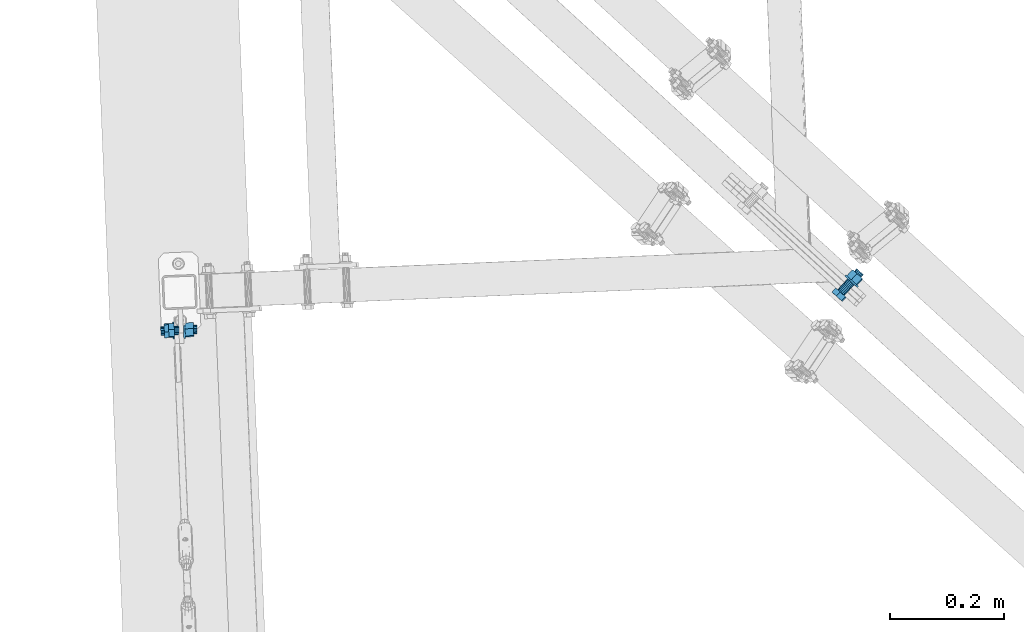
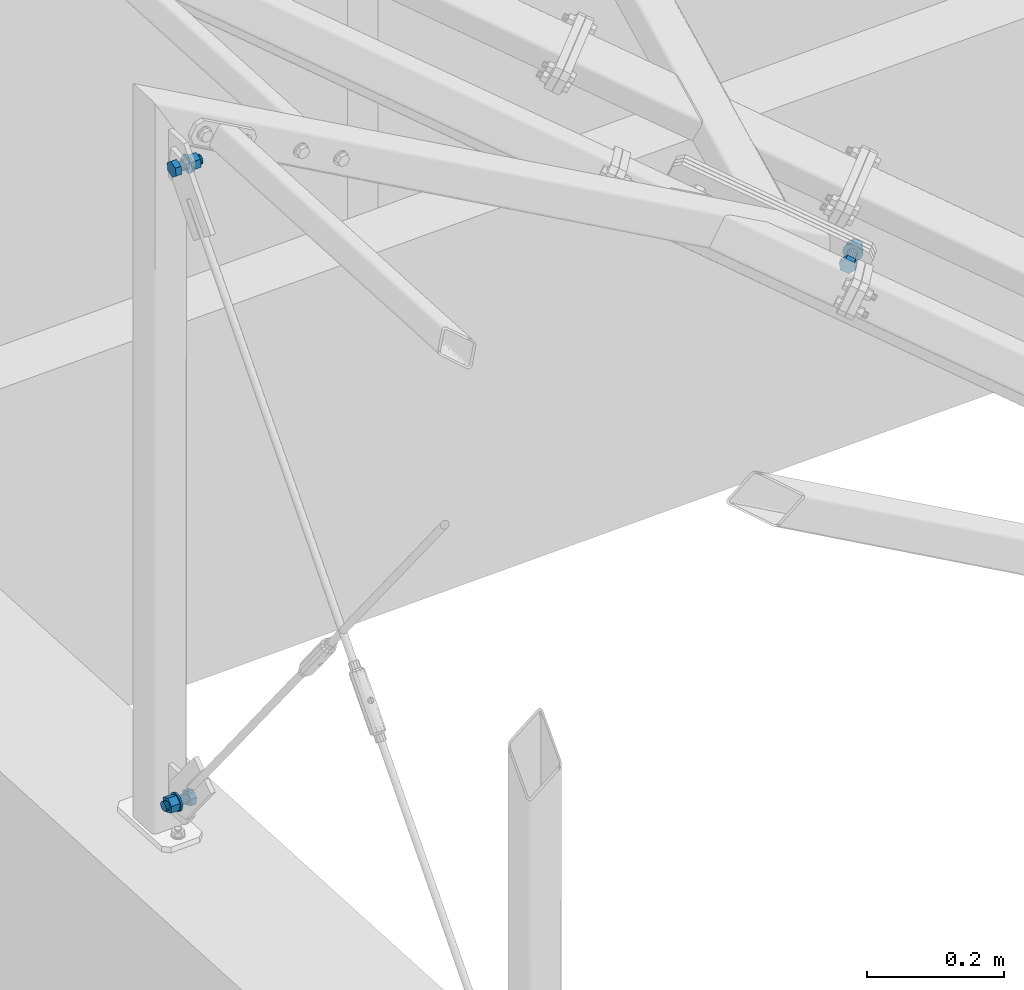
# One storey, part 251 of 288: 3 mechanical fasteners.
"""IFC2X3 building model written with IfcOpenShell, lengths in millimetres."""

from ifc_helpers import new_model, entity, si_unit, converted_unit, origin_with_axes, place, context, project, spatial, faceted_brep, element, save


model = new_model("IFC2X3")

# Units and contexts
model_context = context("Model", 3, precision=1e-09, world=origin_with_axes())
ifc_project = project(units=[si_unit("LENGTHUNIT", "METRE", prefix="MILLI"), si_unit("AREAUNIT", "SQUARE_METRE"), si_unit("VOLUMEUNIT", "CUBIC_METRE"), converted_unit("PLANEANGLEUNIT", "DEGREE", entity("IfcPlaneAngleMeasure", 0.01745329), si_unit("PLANEANGLEUNIT", "RADIAN"), dimensions=[0, 0, 0, 0, 0, 0, 0])], contexts=[model_context])

# Site, building, storey
site_placement = place(None, origin_with_axes())
site = spatial("IfcSite", under=ifc_project, at=site_placement, Name="Remont ?wietlik?w nad MC w NCPP w Opolu", CompositionType="ELEMENT")
building_placement = place(site_placement, origin_with_axes())
building = spatial("IfcBuilding", under=site, at=building_placement, Name="Konstrukcja 1", CompositionType="ELEMENT")
storey_placement = place(building_placement, origin_with_axes())
storey = spatial("IfcBuildingStorey", under=building, at=storey_placement, Name="Default Storey", CompositionType="ELEMENT", Elevation=0.0)

# Mechanical fasteners
mechanical_fastener_1_placement = place(None, origin_with_axes())
element("IfcMechanicalFastener", 1, at=mechanical_fastener_1_placement, inside=storey, ObjectType="-", NominalDiameter=16.0, NominalLength=50.0, context=model_context, shape_type="Brep", body=[
    faceted_brep([(448.951132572, 14353.470952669, 606.053611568), (442.211106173, 14346.083753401, 606.090096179), (443.508704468, 14344.834378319, 592.836948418), (450.248730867, 14352.221577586, 592.800463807), (435.674851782, 14351.941498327, 584.650971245), (442.414878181, 14359.328697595, 584.614486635), (426.543400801, 14360.297993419, 589.718141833), (433.2834272, 14367.685192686, 589.681657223), (425.245802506, 14361.547368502, 602.971289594), (431.985828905, 14368.934567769, 602.934804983), (433.079655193, 14354.440248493, 611.157266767), (439.819681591, 14361.82744776, 611.120782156)], [[[0, 1, 2, 3]], [[3, 2, 4, 5]], [[5, 4, 6, 7]], [[7, 6, 8, 9]], [[9, 8, 10, 11]], [[11, 10, 1, 0]], [[4, 2, 1, 10, 8, 6]], [[0, 3, 5, 7, 9, 11]]]),
    faceted_brep([(438.860108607, 14362.600933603, 590.464039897), (456.384177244, 14381.807651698, 590.369179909), (458.646135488, 14379.740912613, 589.772896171), (441.122066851, 14360.534194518, 589.867756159), (460.907364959, 14377.68085358, 590.394521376), (443.383296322, 14358.474135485, 590.489381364), (462.82361397, 14375.941099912, 592.13941872), (445.299545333, 14356.734381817, 592.234278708), (464.103150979, 14374.786513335, 594.741943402), (446.579082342, 14355.57979524, 594.836803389), (464.551178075, 14374.392869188, 597.805884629), (447.027109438, 14355.186151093, 597.900744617), (464.099487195, 14374.820096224, 600.864785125), (446.575418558, 14355.613378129, 600.959645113), (462.81684418, 14376.003153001, 603.452955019), (445.292775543, 14356.796434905, 603.547815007), (460.898519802, 14377.761929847, 605.176368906), (443.374451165, 14358.555211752, 605.271228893), (458.636561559, 14379.828668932, 605.772652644), (441.112492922, 14360.621950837, 605.867512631), (456.375332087, 14381.888727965, 605.151027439), (438.85126345, 14362.68200987, 605.245887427), (454.459083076, 14383.628481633, 603.406130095), (436.935014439, 14364.421763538, 603.500990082), (453.179546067, 14384.78306821, 600.803605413), (435.65547743, 14365.576350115, 600.898465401), (452.731518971, 14385.176712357, 597.739664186), (435.207450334, 14365.969994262, 597.834524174), (453.183209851, 14384.749485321, 594.68076369), (435.659141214, 14365.542767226, 594.775623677), (454.465852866, 14383.566428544, 592.092593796), (436.941784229, 14364.359710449, 592.187453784)], [[[0, 1, 2, 3]], [[3, 2, 4, 5]], [[5, 4, 6, 7]], [[7, 6, 8, 9]], [[9, 8, 10, 11]], [[11, 10, 12, 13]], [[13, 12, 14, 15]], [[15, 14, 16, 17]], [[17, 16, 18, 19]], [[19, 18, 20, 21]], [[21, 20, 22, 23]], [[23, 22, 24, 25]], [[25, 24, 26, 27]], [[27, 26, 28, 29]], [[29, 28, 30, 31]], [[31, 30, 1, 0]], [[0, 3, 5, 7, 9, 11, 13, 15, 17, 19, 21, 23, 25, 27, 29, 31]], [[1, 30, 28, 26, 24, 22, 20, 18, 16, 14, 12, 10, 8, 6, 4, 2]]]),
    faceted_brep([(454.409152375, 14383.577655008, 583.891034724), (456.431160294, 14385.793814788, 583.88008934), (458.510377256, 14383.8925943, 583.038162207), (456.488369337, 14381.67643452, 583.04910759), (460.672332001, 14381.918679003, 582.762057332), (458.650324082, 14379.702519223, 582.773002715), (462.83394182, 14379.947925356, 583.062385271), (460.811933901, 14377.731765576, 583.073330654), (464.912137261, 14378.056068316, 583.92760459), (462.890129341, 14375.839908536, 583.938549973), (466.827054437, 14376.315810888, 585.324465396), (464.805046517, 14374.099651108, 585.335410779), (468.505104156, 14374.794030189, 587.199287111), (466.483096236, 14372.577870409, 587.210232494), (469.881799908, 14373.549207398, 589.480021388), (467.859791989, 14371.333047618, 589.490966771), (470.904236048, 14372.629180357, 592.079020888), (468.882228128, 14370.413020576, 592.089966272), (471.533120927, 14372.069305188, 594.896407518), (469.511113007, 14369.853145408, 594.907352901), (471.744286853, 14371.891097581, 597.82391069), (469.722278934, 14369.674937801, 597.834856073), (471.529618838, 14372.101405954, 600.749028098), (469.507610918, 14369.885246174, 600.759973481), (470.897366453, 14372.692148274, 603.55934912), (468.875358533, 14370.475988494, 603.570294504), (469.871826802, 14373.640622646, 606.146874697), (467.849818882, 14371.424462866, 606.15782008), (468.4924108, 14374.91037973, 608.412167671), (466.47040288, 14372.69421995, 608.423113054), (466.812128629, 14376.452623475, 610.268174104), (464.790120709, 14374.236463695, 610.279119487), (464.895552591, 14378.208086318, 611.643568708), (462.873544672, 14375.991926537, 611.654514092), (462.816335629, 14380.109306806, 612.485495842), (460.79432771, 14377.893147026, 612.496441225), (460.654380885, 14382.083222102, 612.761600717), (458.632372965, 14379.867062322, 612.7725461), (458.492771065, 14384.053975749, 612.461272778), (456.470763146, 14381.837815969, 612.472218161), (456.414575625, 14385.945832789, 611.596053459), (454.392567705, 14383.729673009, 611.606998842), (454.499658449, 14387.686090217, 610.199192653), (452.477650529, 14385.469930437, 610.210138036), (452.82160873, 14389.207870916, 608.324370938), (450.79960081, 14386.991711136, 608.335316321), (451.444912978, 14390.452693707, 606.043636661), (449.422905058, 14388.236533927, 606.054582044), (450.422476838, 14391.372720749, 603.44463716), (448.400468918, 14389.156560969, 603.455582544), (449.793591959, 14391.932595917, 600.62725053), (447.771584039, 14389.716436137, 600.638195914), (449.582426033, 14392.110803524, 597.699747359), (447.560418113, 14389.894643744, 597.710692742), (449.797094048, 14391.900495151, 594.774629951), (447.775086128, 14389.684335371, 594.785575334), (450.429346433, 14391.309752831, 591.964308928), (448.407338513, 14389.093593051, 591.975254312), (451.454886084, 14390.36127846, 589.376783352), (449.432878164, 14388.145118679, 589.387728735), (452.834302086, 14389.091521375, 587.111490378), (450.812294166, 14386.875361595, 587.122435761), (454.514584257, 14387.549277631, 585.255483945), (452.492576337, 14385.33311785, 585.266429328)], [[[0, 1, 2, 3]], [[3, 2, 4, 5]], [[5, 4, 6, 7]], [[7, 6, 8, 9]], [[9, 8, 10, 11]], [[11, 10, 12, 13]], [[13, 12, 14, 15]], [[15, 14, 16, 17]], [[17, 16, 18, 19]], [[19, 18, 20, 21]], [[21, 20, 22, 23]], [[23, 22, 24, 25]], [[25, 24, 26, 27]], [[27, 26, 28, 29]], [[29, 28, 30, 31]], [[31, 30, 32, 33]], [[33, 32, 34, 35]], [[35, 34, 36, 37]], [[37, 36, 38, 39]], [[39, 38, 40, 41]], [[41, 40, 42, 43]], [[43, 42, 44, 45]], [[45, 44, 46, 47]], [[47, 46, 48, 49]], [[49, 48, 50, 51]], [[51, 50, 52, 53]], [[53, 52, 54, 55]], [[55, 54, 56, 57]], [[57, 56, 58, 59]], [[59, 58, 60, 61]], [[61, 60, 62, 63]], [[63, 62, 1, 0]], [[0, 3, 5, 7, 9, 11, 13, 15, 17, 19, 21, 23, 25, 27, 29, 31, 33, 35, 37, 39, 41, 43, 45, 47, 49, 51, 53, 55, 57, 59, 61, 63]], [[1, 62, 60, 58, 56, 54, 52, 50, 48, 46, 44, 42, 40, 38, 36, 34, 32, 30, 28, 26, 24, 22, 20, 18, 16, 14, 12, 10, 8, 6, 4, 2]]]),
    faceted_brep([(478.4724482, 14385.82688546, 605.893808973), (468.497209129, 14374.893830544, 605.947806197), (469.794807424, 14373.644455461, 592.694658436), (479.770046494, 14384.577510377, 592.640661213), (461.960954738, 14380.75157547, 584.508681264), (471.936193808, 14391.684630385, 584.45468404), (452.829503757, 14389.108070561, 589.575851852), (462.804742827, 14400.041125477, 589.521854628), (451.531905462, 14390.357445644, 602.828999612), (461.507144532, 14401.29050056, 602.775002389), (459.365758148, 14383.250325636, 611.014976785), (469.340997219, 14394.183380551, 610.960979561)], [[[0, 1, 2, 3]], [[3, 2, 4, 5]], [[5, 4, 6, 7]], [[7, 6, 8, 9]], [[9, 8, 10, 11]], [[11, 10, 1, 0]], [[4, 2, 1, 10, 8, 6]], [[0, 3, 5, 7, 9, 11]]]),
    faceted_brep([(468.381424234, 14394.956866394, 590.304237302), (472.560240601, 14399.53692994, 590.281616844), (474.822198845, 14397.470190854, 589.685333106), (470.643382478, 14392.890127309, 589.707953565), (477.083428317, 14395.410131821, 590.30695831), (472.904611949, 14390.830068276, 590.329578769), (478.999677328, 14393.670378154, 592.051855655), (474.82086096, 14389.090314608, 592.074476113), (480.279214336, 14392.515791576, 594.654380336), (476.100397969, 14387.93572803, 594.677000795), (480.727241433, 14392.122147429, 597.718321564), (476.548425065, 14387.542083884, 597.740942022), (480.275550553, 14392.549374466, 600.77722206), (476.096734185, 14387.96931092, 600.799842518), (478.992907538, 14393.732431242, 603.365391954), (474.81409117, 14389.152367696, 603.388012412), (477.07458316, 14395.491208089, 605.08880584), (472.895766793, 14390.911144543, 605.111426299), (474.812624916, 14397.557947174, 605.685089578), (470.633808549, 14392.977883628, 605.707710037), (472.551395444, 14399.618006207, 605.063464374), (468.372579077, 14395.037942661, 605.086084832), (470.635146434, 14401.357759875, 603.318567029), (466.456330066, 14396.777696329, 603.341187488), (469.355609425, 14402.512346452, 600.716042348), (465.176793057, 14397.932282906, 600.738662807), (468.907582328, 14402.905990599, 597.65210112), (464.728765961, 14398.325927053, 597.674721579), (469.359273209, 14402.478763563, 594.593200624), (465.180456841, 14397.898700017, 594.615821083), (470.641916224, 14401.295706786, 592.00503073), (466.463099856, 14396.71564324, 592.027651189)], [[[0, 1, 2, 3]], [[3, 2, 4, 5]], [[5, 4, 6, 7]], [[7, 6, 8, 9]], [[9, 8, 10, 11]], [[11, 10, 12, 13]], [[13, 12, 14, 15]], [[15, 14, 16, 17]], [[17, 16, 18, 19]], [[19, 18, 20, 21]], [[21, 20, 22, 23]], [[23, 22, 24, 25]], [[25, 24, 26, 27]], [[27, 26, 28, 29]], [[29, 28, 30, 31]], [[31, 30, 1, 0]], [[0, 3, 5, 7, 9, 11, 13, 15, 17, 19, 21, 23, 25, 27, 29, 31]], [[1, 30, 28, 26, 24, 22, 20, 18, 16, 14, 12, 10, 8, 6, 4, 2]]]),
])
mechanical_fastener_2_placement = place(None, origin_with_axes())
element("IfcMechanicalFastener", 2, at=mechanical_fastener_2_placement, inside=storey, ObjectType="Bolt#1", NominalDiameter=16.0, NominalLength=40.0, context=model_context, shape_type="Brep", body=[
    faceted_brep([(-733.218687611, 14292.180923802, 1206.42602443), (-743.210001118, 14291.764205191, 1206.42602443), (-743.727395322, 14304.169333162, 1211.399527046), (-733.736081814, 14304.586051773, 1211.399527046), (-743.806604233, 14306.068458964, 1224.638774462), (-733.815290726, 14306.485177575, 1224.638774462), (-743.368418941, 14295.562456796, 1232.904519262), (-733.377105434, 14295.979175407, 1232.904519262), (-742.851024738, 14283.157328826, 1227.931016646), (-732.85971123, 14283.574047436, 1227.931016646), (-742.771815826, 14281.258203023, 1214.69176923), (-732.780502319, 14281.674921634, 1214.69176923)], [[[0, 1, 2, 3]], [[3, 2, 4, 5]], [[5, 4, 6, 7]], [[7, 6, 8, 9]], [[9, 8, 10, 11]], [[11, 10, 1, 0]], [[4, 2, 1, 10, 8, 6]], [[0, 3, 5, 7, 9, 11]]]),
    faceted_brep([(-733.503922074, 14299.019751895, 1225.954699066), (-717.517820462, 14299.686501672, 1225.954699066), (-717.60243602, 14301.715258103, 1223.583959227), (-733.588537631, 14301.048508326, 1223.583959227), (-717.642804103, 14302.683129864, 1220.616634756), (-733.628905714, 14302.016380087, 1220.616634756), (-717.632779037, 14302.442767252, 1217.504473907), (-733.618880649, 14301.776017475, 1217.504473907), (-717.573887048, 14301.030763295, 1214.721274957), (-733.55998866, 14300.364013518, 1214.721274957), (-717.475093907, 14298.662082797, 1212.690754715), (-733.461195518, 14297.99533302, 1212.690754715), (-717.351439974, 14295.697335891, 1211.722041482), (-733.337541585, 14295.030586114, 1211.722041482), (-717.221750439, 14292.587878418, 1211.962613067), (-733.207852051, 14291.921128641, 1211.962613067), (-717.105769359, 14289.807097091, 1213.375844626), (-733.091870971, 14289.140347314, 1213.375844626), (-717.021153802, 14287.778340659, 1215.746584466), (-733.007255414, 14287.111590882, 1215.746584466), (-716.980785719, 14286.810468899, 1218.713908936), (-732.96688733, 14286.143719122, 1218.713908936), (-716.990810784, 14287.050831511, 1221.826069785), (-732.976912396, 14286.384081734, 1221.826069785), (-717.049702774, 14288.462835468, 1224.609268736), (-733.035804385, 14287.796085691, 1224.609268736), (-717.148495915, 14290.831515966, 1226.639788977), (-733.134597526, 14290.164766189, 1226.639788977), (-717.272149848, 14293.796262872, 1227.60850221), (-733.258251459, 14293.129513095, 1227.60850221), (-717.401839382, 14296.905720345, 1227.367930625), (-733.387940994, 14296.238970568, 1227.367930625)], [[[0, 1, 2, 3]], [[3, 2, 4, 5]], [[5, 4, 6, 7]], [[7, 6, 8, 9]], [[9, 8, 10, 11]], [[11, 10, 12, 13]], [[13, 12, 14, 15]], [[15, 14, 16, 17]], [[17, 16, 18, 19]], [[19, 18, 20, 21]], [[21, 20, 22, 23]], [[23, 22, 24, 25]], [[25, 24, 26, 27]], [[27, 26, 28, 29]], [[29, 28, 30, 31]], [[31, 30, 1, 0]], [[0, 3, 5, 7, 9, 11, 13, 15, 17, 19, 21, 23, 25, 27, 29, 31]], [[1, 30, 28, 26, 24, 22, 20, 18, 16, 14, 12, 10, 8, 6, 4, 2]]]),
    faceted_brep([(-717.69809282, 14304.008741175, 1231.457947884), (-714.700698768, 14304.133756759, 1231.457947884), (-714.789147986, 14306.254429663, 1229.422868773), (-717.786542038, 14306.12941408, 1229.422868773), (-714.859352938, 14307.937675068, 1227.012810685), (-717.85674699, 14307.812659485, 1227.012810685), (-714.908615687, 14309.118806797, 1224.320390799), (-717.906009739, 14308.993791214, 1224.320390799), (-714.935043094, 14309.752434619, 1221.449077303), (-717.932437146, 14309.627419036, 1221.449077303), (-714.937619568, 14309.814208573, 1218.509213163), (-717.93501362, 14309.68919299, 1218.509213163), (-714.916246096, 14309.301754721, 1215.613775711), (-717.913640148, 14309.176739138, 1215.613775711), (-714.871744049, 14308.234766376, 1212.874034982), (-717.869138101, 14308.109750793, 1212.874034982), (-714.805823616, 14306.654247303, 1210.395277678), (-717.803217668, 14306.529231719, 1210.395277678), (-714.721018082, 14304.620935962, 1208.272761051), (-717.718412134, 14304.495920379, 1208.272761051), (-714.620586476, 14302.212971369, 1206.588052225), (-717.617980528, 14302.087955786, 1206.588052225), (-714.508388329, 14299.522890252, 1205.405893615), (-717.505782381, 14299.397874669, 1205.405893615), (-714.388735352, 14296.65407092, 1204.771714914), (-717.386129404, 14296.529055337, 1204.771714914), (-714.266225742, 14293.716760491, 1204.709887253), (-717.263619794, 14293.591744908, 1204.709887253), (-714.145567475, 14290.823838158, 1205.222786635), (-717.142961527, 14290.698822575, 1205.222786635), (-714.03139738, 14288.086477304, 1206.290702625), (-717.028791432, 14287.961461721, 1206.290702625), (-713.92810295, 14285.60987317, 1207.872595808), (-716.925497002, 14285.484857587, 1207.872595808), (-713.839653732, 14283.489200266, 1209.907674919), (-716.837047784, 14283.364184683, 1209.907674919), (-713.76944878, 14281.805954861, 1212.317733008), (-716.766842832, 14281.680939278, 1212.317733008), (-713.72018603, 14280.624823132, 1215.010152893), (-716.717580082, 14280.499807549, 1215.010152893), (-713.693758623, 14279.99119531, 1217.881466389), (-716.691152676, 14279.866179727, 1217.881466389), (-713.69118215, 14279.929421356, 1220.821330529), (-716.688576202, 14279.804405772, 1220.821330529), (-713.712555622, 14280.441875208, 1223.716767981), (-716.709949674, 14280.316859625, 1223.716767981), (-713.757057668, 14281.508863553, 1226.45650871), (-716.75445172, 14281.38384797, 1226.45650871), (-713.822978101, 14283.089382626, 1228.935266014), (-716.820372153, 14282.964367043, 1228.935266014), (-713.907783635, 14285.122693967, 1231.057782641), (-716.905177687, 14284.997678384, 1231.057782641), (-714.008215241, 14287.53065856, 1232.742491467), (-717.005609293, 14287.405642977, 1232.742491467), (-714.120413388, 14290.220739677, 1233.924650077), (-717.117807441, 14290.095724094, 1233.924650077), (-714.240066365, 14293.089559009, 1234.558828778), (-717.237460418, 14292.964543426, 1234.558828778), (-714.362575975, 14296.026869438, 1234.620656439), (-717.359970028, 14295.901853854, 1234.620656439), (-714.483234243, 14298.919791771, 1234.107757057), (-717.480628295, 14298.794776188, 1234.107757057), (-714.597404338, 14301.657152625, 1233.039841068), (-717.59479839, 14301.532137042, 1233.039841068)], [[[0, 1, 2, 3]], [[3, 2, 4, 5]], [[5, 4, 6, 7]], [[7, 6, 8, 9]], [[9, 8, 10, 11]], [[11, 10, 12, 13]], [[13, 12, 14, 15]], [[15, 14, 16, 17]], [[17, 16, 18, 19]], [[19, 18, 20, 21]], [[21, 20, 22, 23]], [[23, 22, 24, 25]], [[25, 24, 26, 27]], [[27, 26, 28, 29]], [[29, 28, 30, 31]], [[31, 30, 32, 33]], [[33, 32, 34, 35]], [[35, 34, 36, 37]], [[37, 36, 38, 39]], [[39, 38, 40, 41]], [[41, 40, 42, 43]], [[43, 42, 44, 45]], [[45, 44, 46, 47]], [[47, 46, 48, 49]], [[49, 48, 50, 51]], [[51, 50, 52, 53]], [[53, 52, 54, 55]], [[55, 54, 56, 57]], [[57, 56, 58, 59]], [[59, 58, 60, 61]], [[61, 60, 62, 63]], [[63, 62, 1, 0]], [[0, 3, 5, 7, 9, 11, 13, 15, 17, 19, 21, 23, 25, 27, 29, 31, 33, 35, 37, 39, 41, 43, 45, 47, 49, 51, 53, 55, 57, 59, 61, 63]], [[1, 62, 60, 58, 56, 54, 52, 50, 48, 46, 44, 42, 40, 38, 36, 34, 32, 30, 28, 26, 24, 22, 20, 18, 16, 14, 12, 10, 8, 6, 4, 2]]]),
    faceted_brep([(-699.448047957, 14293.589432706, 1206.42602443), (-714.235191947, 14292.972689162, 1206.42602443), (-714.752586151, 14305.377817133, 1211.399527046), (-699.96544216, 14305.994560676, 1211.399527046), (-714.831795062, 14307.276942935, 1224.638774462), (-700.044651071, 14307.893686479, 1224.638774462), (-714.39360977, 14296.770940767, 1232.904519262), (-699.606465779, 14297.387684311, 1232.904519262), (-713.876215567, 14284.365812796, 1227.931016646), (-699.089071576, 14284.98255634, 1227.931016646), (-713.797006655, 14282.466686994, 1214.69176923), (-699.009862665, 14283.083430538, 1214.69176923)], [[[0, 1, 2, 3]], [[3, 2, 4, 5]], [[5, 4, 6, 7]], [[7, 6, 8, 9]], [[9, 8, 10, 11]], [[11, 10, 1, 0]], [[4, 2, 1, 10, 8, 6]], [[0, 3, 5, 7, 9, 11]]]),
    faceted_brep([(-699.733282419, 14300.428260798, 1225.954699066), (-693.538668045, 14300.686626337, 1225.954699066), (-693.623283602, 14302.715382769, 1223.583959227), (-699.817897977, 14302.45701723, 1223.583959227), (-693.663651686, 14303.683254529, 1220.616634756), (-699.85826606, 14303.424888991, 1220.616634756), (-693.65362662, 14303.442891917, 1217.504473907), (-699.848240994, 14303.184526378, 1217.504473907), (-693.594734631, 14302.030887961, 1214.721274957), (-699.789349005, 14301.772522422, 1214.721274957), (-693.49594149, 14299.662207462, 1212.690754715), (-699.690555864, 14299.403841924, 1212.690754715), (-693.372287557, 14296.697460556, 1211.722041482), (-699.566901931, 14296.439095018, 1211.722041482), (-693.242598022, 14293.588003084, 1211.962613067), (-699.437212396, 14293.329637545, 1211.962613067), (-693.126616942, 14290.807221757, 1213.375844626), (-699.321231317, 14290.548856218, 1213.375844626), (-693.042001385, 14288.778465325, 1215.746584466), (-699.236615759, 14288.520099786, 1215.746584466), (-693.001633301, 14287.810593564, 1218.713908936), (-699.196247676, 14287.552228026, 1218.713908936), (-693.011658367, 14288.050956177, 1221.826069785), (-699.206272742, 14287.792590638, 1221.826069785), (-693.070550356, 14289.462960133, 1224.609268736), (-699.265164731, 14289.204594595, 1224.609268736), (-693.169343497, 14291.831640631, 1226.639788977), (-699.363957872, 14291.573275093, 1226.639788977), (-693.29299743, 14294.796387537, 1227.60850221), (-699.487611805, 14294.538021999, 1227.60850221), (-693.422686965, 14297.90584501, 1227.367930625), (-699.617301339, 14297.647479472, 1227.367930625)], [[[0, 1, 2, 3]], [[3, 2, 4, 5]], [[5, 4, 6, 7]], [[7, 6, 8, 9]], [[9, 8, 10, 11]], [[11, 10, 12, 13]], [[13, 12, 14, 15]], [[15, 14, 16, 17]], [[17, 16, 18, 19]], [[19, 18, 20, 21]], [[21, 20, 22, 23]], [[23, 22, 24, 25]], [[25, 24, 26, 27]], [[27, 26, 28, 29]], [[29, 28, 30, 31]], [[31, 30, 1, 0]], [[0, 3, 5, 7, 9, 11, 13, 15, 17, 19, 21, 23, 25, 27, 29, 31]], [[1, 30, 28, 26, 24, 22, 20, 18, 16, 14, 12, 10, 8, 6, 4, 2]]]),
])
mechanical_fastener_3_placement = place(None, origin_with_axes())
element("IfcMechanicalFastener", 3, at=mechanical_fastener_3_placement, inside=storey, ObjectType="Bolt#1", NominalDiameter=16.0, NominalLength=40.0, context=model_context, shape_type="Brep", body=[
    faceted_brep([(-717.232585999, 14292.847673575, 98.57397582), (-707.241272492, 14293.264392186, 98.57397582), (-707.758666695, 14305.669520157, 93.600473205), (-717.749980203, 14305.252801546, 93.600473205), (-707.837875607, 14307.56864596, 80.361225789), (-717.829189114, 14307.15192735, 80.361225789), (-707.399690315, 14297.062643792, 72.095480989), (-717.391003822, 14296.645925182, 72.095480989), (-706.882296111, 14284.657515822, 77.068983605), (-716.873609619, 14284.240797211, 77.068983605), (-706.8030872, 14282.758390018, 90.30823102), (-716.794400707, 14282.341671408, 90.30823102)], [[[0, 1, 2, 3]], [[3, 2, 4, 5]], [[5, 4, 6, 7]], [[7, 6, 8, 9]], [[9, 8, 10, 11]], [[11, 10, 1, 0]], [[4, 2, 1, 10, 8, 6]], [[0, 3, 5, 7, 9, 11]]]),
    faceted_brep([(-717.517820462, 14299.686501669, 79.045301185), (-733.503922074, 14299.019751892, 79.045301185), (-733.588537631, 14301.048508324, 81.416041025), (-717.60243602, 14301.715258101, 81.416041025), (-733.628905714, 14302.016380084, 84.383365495), (-717.642804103, 14302.683129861, 84.383365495), (-733.618880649, 14301.776017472, 87.495526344), (-717.632779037, 14302.442767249, 87.495526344), (-733.559988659, 14300.364013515, 90.278725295), (-717.573887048, 14301.030763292, 90.278725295), (-733.461195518, 14297.995333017, 92.309245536), (-717.475093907, 14298.662082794, 92.309245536), (-733.337541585, 14295.030586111, 93.277958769), (-717.351439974, 14295.697335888, 93.277958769), (-733.207852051, 14291.921128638, 93.037387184), (-717.221750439, 14292.587878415, 93.037387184), (-733.091870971, 14289.140347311, 91.624155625), (-717.105769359, 14289.807097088, 91.624155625), (-733.007255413, 14287.11159088, 89.253415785), (-717.021153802, 14287.778340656, 89.253415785), (-732.96688733, 14286.143719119, 86.286091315), (-716.980785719, 14286.810468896, 86.286091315), (-732.976912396, 14286.384081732, 83.173930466), (-716.990810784, 14287.050831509, 83.173930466), (-733.035804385, 14287.796085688, 80.390731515), (-717.049702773, 14288.462835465, 80.390731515), (-733.134597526, 14290.164766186, 78.360211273), (-717.148495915, 14290.831515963, 78.360211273), (-733.258251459, 14293.129513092, 77.391498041), (-717.272149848, 14293.796262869, 77.391498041), (-733.387940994, 14296.238970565, 77.632069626), (-717.401839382, 14296.905720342, 77.632069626)], [[[0, 1, 2, 3]], [[3, 2, 4, 5]], [[5, 4, 6, 7]], [[7, 6, 8, 9]], [[9, 8, 10, 11]], [[11, 10, 12, 13]], [[13, 12, 14, 15]], [[15, 14, 16, 17]], [[17, 16, 18, 19]], [[19, 18, 20, 21]], [[21, 20, 22, 23]], [[23, 22, 24, 25]], [[25, 24, 26, 27]], [[27, 26, 28, 29]], [[29, 28, 30, 31]], [[31, 30, 1, 0]], [[0, 3, 5, 7, 9, 11, 13, 15, 17, 19, 21, 23, 25, 27, 29, 31]], [[1, 30, 28, 26, 24, 22, 20, 18, 16, 14, 12, 10, 8, 6, 4, 2]]]),
    faceted_brep([(-733.684194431, 14303.341991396, 73.542052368), (-736.681588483, 14303.216975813, 73.542052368), (-736.770037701, 14305.337648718, 75.577131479), (-733.772643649, 14305.462664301, 75.577131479), (-736.840242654, 14307.020894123, 77.987189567), (-733.842848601, 14307.145909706, 77.987189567), (-736.889505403, 14308.202025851, 80.679609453), (-733.892111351, 14308.327041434, 80.679609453), (-736.91593281, 14308.835653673, 83.550922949), (-733.918538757, 14308.960669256, 83.550922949), (-736.918509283, 14308.897427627, 86.490787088), (-733.921115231, 14309.02244321, 86.490787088), (-736.897135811, 14308.384973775, 89.386224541), (-733.899741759, 14308.509989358, 89.386224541), (-736.852633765, 14307.31798543, 92.125965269), (-733.855239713, 14307.443001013, 92.125965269), (-736.786713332, 14305.737466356, 94.604722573), (-733.78931928, 14305.862481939, 94.604722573), (-736.701907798, 14303.704155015, 96.7272392), (-733.704513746, 14303.829170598, 96.7272392), (-736.601476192, 14301.296190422, 98.411948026), (-733.60408214, 14301.421206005, 98.411948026), (-736.489278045, 14298.606109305, 99.594106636), (-733.491883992, 14298.731124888, 99.594106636), (-736.369625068, 14295.737289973, 100.228285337), (-733.372231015, 14295.862305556, 100.228285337), (-736.247115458, 14292.799979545, 100.290112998), (-733.249721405, 14292.924995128, 100.290112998), (-736.12645719, 14289.907057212, 99.777213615), (-733.129063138, 14290.032072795, 99.777213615), (-736.012287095, 14287.169696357, 98.709297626), (-733.014893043, 14287.29471194, 98.709297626), (-735.908992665, 14284.693092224, 97.127404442), (-732.911598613, 14284.818107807, 97.127404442), (-735.820543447, 14282.572419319, 95.092325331), (-732.823149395, 14282.697434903, 95.092325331), (-735.750338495, 14280.889173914, 92.682267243), (-732.752944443, 14281.014189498, 92.682267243), (-735.701075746, 14279.708042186, 89.989847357), (-732.703681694, 14279.833057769, 89.989847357), (-735.674648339, 14279.074414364, 87.118533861), (-732.677254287, 14279.199429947, 87.118533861), (-735.672071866, 14279.01264041, 84.178669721), (-732.674677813, 14279.137655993, 84.178669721), (-735.693445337, 14279.525094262, 81.283232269), (-732.696051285, 14279.650109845, 81.283232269), (-735.737947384, 14280.592082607, 78.54349154), (-732.740553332, 14280.71709819, 78.54349154), (-735.803867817, 14282.172601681, 76.064734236), (-732.806473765, 14282.297617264, 76.064734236), (-735.888673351, 14284.205913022, 73.942217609), (-732.891279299, 14284.330928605, 73.942217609), (-735.989104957, 14286.613877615, 72.257508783), (-732.991710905, 14286.738893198, 72.257508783), (-736.101303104, 14289.303958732, 71.075350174), (-733.103909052, 14289.428974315, 71.075350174), (-736.220956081, 14292.172778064, 70.441171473), (-733.223562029, 14292.297793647, 70.441171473), (-736.343465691, 14295.110088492, 70.379343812), (-733.346071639, 14295.235104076, 70.379343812), (-736.464123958, 14298.003010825, 70.892243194), (-733.466729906, 14298.128026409, 70.892243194), (-736.578294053, 14300.74037168, 71.960159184), (-733.580900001, 14300.865387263, 71.960159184)], [[[0, 1, 2, 3]], [[3, 2, 4, 5]], [[5, 4, 6, 7]], [[7, 6, 8, 9]], [[9, 8, 10, 11]], [[11, 10, 12, 13]], [[13, 12, 14, 15]], [[15, 14, 16, 17]], [[17, 16, 18, 19]], [[19, 18, 20, 21]], [[21, 20, 22, 23]], [[23, 22, 24, 25]], [[25, 24, 26, 27]], [[27, 26, 28, 29]], [[29, 28, 30, 31]], [[31, 30, 32, 33]], [[33, 32, 34, 35]], [[35, 34, 36, 37]], [[37, 36, 38, 39]], [[39, 38, 40, 41]], [[41, 40, 42, 43]], [[43, 42, 44, 45]], [[45, 44, 46, 47]], [[47, 46, 48, 49]], [[49, 48, 50, 51]], [[51, 50, 52, 53]], [[53, 52, 54, 55]], [[55, 54, 56, 57]], [[57, 56, 58, 59]], [[59, 58, 60, 61]], [[61, 60, 62, 63]], [[63, 62, 1, 0]], [[0, 3, 5, 7, 9, 11, 13, 15, 17, 19, 21, 23, 25, 27, 29, 31, 33, 35, 37, 39, 41, 43, 45, 47, 49, 51, 53, 55, 57, 59, 61, 63]], [[1, 62, 60, 58, 56, 54, 52, 50, 48, 46, 44, 42, 40, 38, 36, 34, 32, 30, 28, 26, 24, 22, 20, 18, 16, 14, 12, 10, 8, 6, 4, 2]]]),
    faceted_brep([(-751.003225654, 14291.439164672, 98.57397582), (-736.216081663, 14292.055908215, 98.57397582), (-736.733475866, 14304.461036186, 93.600473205), (-751.520619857, 14303.844292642, 93.600473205), (-736.812684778, 14306.360161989, 80.361225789), (-751.599828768, 14305.743418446, 80.361225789), (-736.374499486, 14295.854159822, 72.095480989), (-751.161643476, 14295.237416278, 72.095480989), (-735.857105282, 14283.449031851, 77.068983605), (-750.644249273, 14282.832288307, 77.068983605), (-735.777896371, 14281.549906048, 90.30823102), (-750.565040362, 14280.933162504, 90.30823102)], [[[0, 1, 2, 3]], [[3, 2, 4, 5]], [[5, 4, 6, 7]], [[7, 6, 8, 9]], [[9, 8, 10, 11]], [[11, 10, 1, 0]], [[4, 2, 1, 10, 8, 6]], [[0, 3, 5, 7, 9, 11]]]),
    faceted_brep([(-751.288460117, 14298.277992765, 79.045301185), (-757.483074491, 14298.019627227, 79.045301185), (-757.567690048, 14300.048383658, 81.416041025), (-751.373075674, 14300.306749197, 81.416041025), (-757.608058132, 14301.016255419, 84.383365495), (-751.413443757, 14301.274620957, 84.383365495), (-757.598033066, 14300.775892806, 87.495526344), (-751.403418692, 14301.034258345, 87.495526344), (-757.539141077, 14299.36388885, 90.278725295), (-751.344526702, 14299.622254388, 90.278725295), (-757.440347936, 14296.995208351, 92.309245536), (-751.245733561, 14297.25357389, 92.309245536), (-757.316694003, 14294.030461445, 93.277958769), (-751.122079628, 14294.288826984, 93.277958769), (-757.187004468, 14290.921003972, 93.037387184), (-750.992390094, 14291.179369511, 93.037387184), (-757.071023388, 14288.140222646, 91.624155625), (-750.876409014, 14288.398588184, 91.624155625), (-756.986407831, 14286.111466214, 89.253415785), (-750.791793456, 14286.369831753, 89.253415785), (-756.946039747, 14285.143594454, 86.286091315), (-750.751425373, 14285.401959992, 86.286091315), (-756.956064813, 14285.383957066, 83.173930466), (-750.761450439, 14285.642322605, 83.173930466), (-757.014956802, 14286.795961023, 80.390731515), (-750.820342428, 14287.054326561, 80.390731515), (-757.113749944, 14289.164641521, 78.360211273), (-750.919135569, 14289.42300706, 78.360211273), (-757.237403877, 14292.129388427, 77.391498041), (-751.042789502, 14292.387753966, 77.391498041), (-757.367093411, 14295.2388459, 77.632069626), (-751.172479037, 14295.497211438, 77.632069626)], [[[0, 1, 2, 3]], [[3, 2, 4, 5]], [[5, 4, 6, 7]], [[7, 6, 8, 9]], [[9, 8, 10, 11]], [[11, 10, 12, 13]], [[13, 12, 14, 15]], [[15, 14, 16, 17]], [[17, 16, 18, 19]], [[19, 18, 20, 21]], [[21, 20, 22, 23]], [[23, 22, 24, 25]], [[25, 24, 26, 27]], [[27, 26, 28, 29]], [[29, 28, 30, 31]], [[31, 30, 1, 0]], [[0, 3, 5, 7, 9, 11, 13, 15, 17, 19, 21, 23, 25, 27, 29, 31]], [[1, 30, 28, 26, 24, 22, 20, 18, 16, 14, 12, 10, 8, 6, 4, 2]]]),
])

save(model, "model.ifc")
